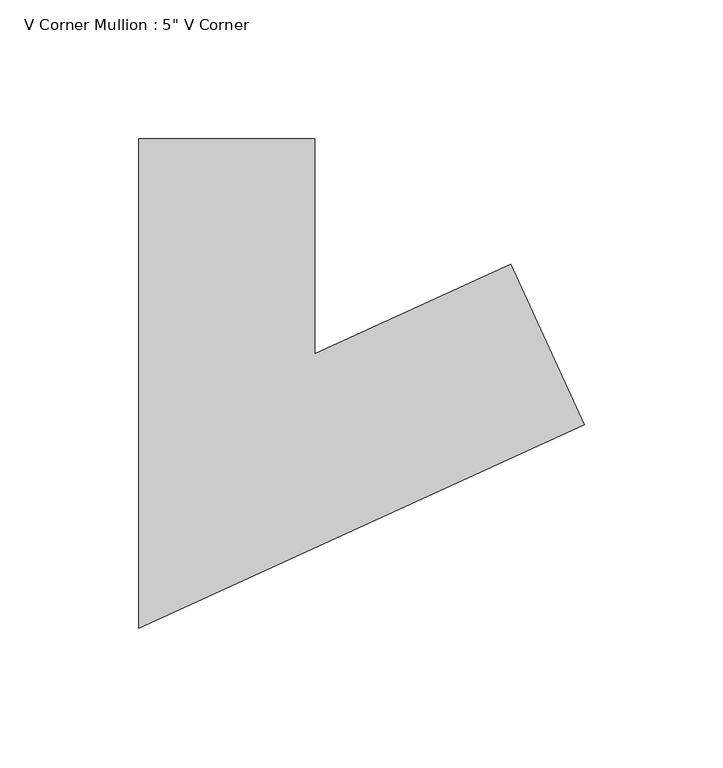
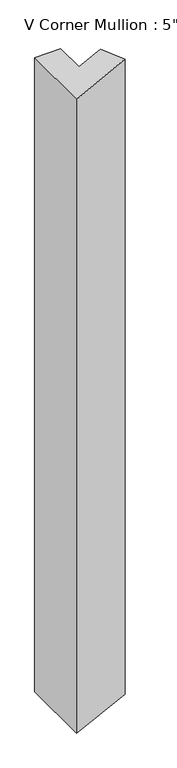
"""IFC4 building model written with IfcOpenShell, lengths in millimetres: member geometry."""

import ifcopenshell
import ifcopenshell.guid

model = None  # the IFC model being written
_history = None  # IfcOwnerHistory: only IFC2X3 demands one
_inside = {}  # id of a spatial element -> (the spatial element, [elements in it])
_under = {}  # id of a project, library or spatial element -> (it, [spatial elements below it])
_declared = {}  # id of a project -> (the project, [libraries it declares])
_typed = {}  # id of a type object -> (the type object, [elements of that type])
_made_of = {}  # id of a material, layer set ... -> (it, [elements and type objects made of it])


def new_model(schema):
    """Start an empty IFC model of exactly this schema.

    Asked for "IFC4X3", IfcOpenShell would pick the latest addendum, in which some entities
    have other attributes; the version numbers below select the first issue.
    IFC2X3 requires an IfcOwnerHistory on every rooted entity: one is made here for all.
    """
    global model, _history
    if schema == "IFC4X3":
        model = ifcopenshell.file(schema_version=(4, 3, 0, 0))
    else:
        model = ifcopenshell.file(schema=schema)
    _inside.clear()
    _under.clear()
    _declared.clear()
    _typed.clear()
    _made_of.clear()
    _history = None
    if model.schema == "IFC2X3":
        org = make("IfcOrganization", Name="unknown")
        user = make(
            "IfcPersonAndOrganization",
            ThePerson=make("IfcPerson", FamilyName="unknown"),
            TheOrganization=org,
        )
        app = make(
            "IfcApplication",
            ApplicationDeveloper=org,
            Version="unknown",
            ApplicationFullName="unknown",
            ApplicationIdentifier="unknown",
        )
        _history = make(
            "IfcOwnerHistory",
            OwningUser=user,
            OwningApplication=app,
            ChangeAction="ADDED",
            CreationDate=0,
        )
    return model


def make(cls, **values):
    """One entity of the class cls with the attributes given. An attribute that is None is left unset."""
    return model.create_entity(
        cls, **{name: value for name, value in values.items() if value is not None}
    )


def rooted(cls, **values):
    """An entity with a GlobalId (a new one), such as an element, a storey or a relation."""
    return make(cls, GlobalId=ifcopenshell.guid.new(), OwnerHistory=_history, **values)


def si_unit(unit_type, name, prefix=None):
    """IfcSIUnit, for example si_unit("LENGTHUNIT", "METRE", prefix="MILLI")."""
    return make("IfcSIUnit", UnitType=unit_type, Prefix=prefix, Name=name)


def assignment(units):
    """IfcUnitAssignment: the units of a project."""
    return None if units is None else make("IfcUnitAssignment", Units=units)


def point(xyz):
    """IfcCartesianPoint."""
    return None if xyz is None else make("IfcCartesianPoint", Coordinates=xyz)


def direction(xyz):
    """IfcDirection."""
    return None if xyz is None else make("IfcDirection", DirectionRatios=xyz)


def frame(location, z_axis=None, x_axis=None):
    """IfcAxis2Placement3D, a coordinate frame: its origin and axes. An axis left out is left unset."""
    return make(
        "IfcAxis2Placement3D",
        Location=point(location),
        Axis=direction(z_axis),
        RefDirection=direction(x_axis),
    )


def origin():
    """The frame at (0, 0, 0) with its axes left unset."""
    return frame((0.0, 0.0, 0.0))


def place(relative_to, where):
    """IfcLocalPlacement: puts the frame where relative to a parent placement (None: the world)."""
    return make(
        "IfcLocalPlacement", PlacementRelTo=relative_to, RelativePlacement=where
    )


def context(
    kind, dimensions, precision=None, world=None, true_north=None, identifier=None
):
    """IfcGeometricRepresentationContext, for example the 3D "Model" context."""
    return make(
        "IfcGeometricRepresentationContext",
        ContextIdentifier=identifier,
        ContextType=kind,
        CoordinateSpaceDimension=dimensions,
        Precision=precision,
        WorldCoordinateSystem=world,
        TrueNorth=true_north,
    )


def project(units=None, contexts=None):
    """IfcProject with its units and contexts."""
    return rooted(
        "IfcProject",
        Name="project",
        RepresentationContexts=contexts,
        UnitsInContext=assignment(units),
    )


def spatial(cls, under=None, at=None, **own):
    """A site, building, storey or space (cls), placed at a placement, below another one or the project."""
    s = rooted(cls, ObjectPlacement=at, **own)
    if under is not None:
        _under.setdefault(under.id(), (under, []))[1].append(s)
    return s


def faces_of(points, faces, orient=None, outer=None):
    """IfcFace entities. A face is a list of loops; a loop is a list of indices into points, from 0.

    orient and outer hold one flag for each loop. By default every Orientation is true, the
    first loop of a face is its IfcFaceOuterBound and the others are IfcFaceBound.
    """
    made = []
    for i, loops in enumerate(faces):
        bounds = []
        for j, loop in enumerate(loops):
            is_outer = j == 0 if outer is None else outer[i][j]
            bounds.append(
                make(
                    "IfcFaceOuterBound" if is_outer else "IfcFaceBound",
                    Bound=make("IfcPolyLoop", Polygon=[points[k] for k in loop]),
                    Orientation=True if orient is None else orient[i][j],
                )
            )
        made.append(make("IfcFace", Bounds=bounds))
    return made


def faceted_brep(points, faces, orient=None, outer=None, voids=None):
    """IfcFacetedBrep: a solid bounded by flat faces; with voids (closed shells), ...WithVoids."""
    shared = [point(p) for p in points]
    hull = make("IfcClosedShell", CfsFaces=faces_of(shared, faces, orient, outer))
    if voids is None:
        return make("IfcFacetedBrep", Outer=hull)
    return make(
        "IfcFacetedBrepWithVoids",
        Outer=hull,
        Voids=[
            make(cls, CfsFaces=faces_of(shared, fs, o, b)) for cls, fs, o, b in voids
        ],
    )


def shape(context_of_items, identifier, shape_type, items):
    """IfcShapeRepresentation: the items that make up one representation, for example the "Body"."""
    return make(
        "IfcShapeRepresentation",
        ContextOfItems=context_of_items,
        RepresentationIdentifier=identifier,
        RepresentationType=shape_type,
        Items=items,
    )


def source(mapping_origin, context_of_items, identifier, shape_type, items):
    """IfcRepresentationMap: a shape defined once, which mapped items show again and again."""
    return make(
        "IfcRepresentationMap",
        MappingOrigin=mapping_origin,
        MappedRepresentation=shape(context_of_items, identifier, shape_type, items),
    )


def transform(
    local_origin,
    x_axis=None,
    y_axis=None,
    z_axis=None,
    scale=None,
    scale2=None,
    scale3=None,
    uniform=True,
):
    """IfcCartesianTransformationOperator3D, or its non-uniform kind. x_axis, y_axis, z_axis: its Axis1, 2, 3."""
    if uniform:
        return make(
            "IfcCartesianTransformationOperator3D",
            Axis1=direction(x_axis),
            Axis2=direction(y_axis),
            LocalOrigin=point(local_origin),
            Scale=scale,
            Axis3=direction(z_axis),
        )
    return make(
        "IfcCartesianTransformationOperator3DnonUniform",
        Axis1=direction(x_axis),
        Axis2=direction(y_axis),
        LocalOrigin=point(local_origin),
        Scale=scale,
        Axis3=direction(z_axis),
        Scale2=scale2,
        Scale3=scale3,
    )


def mapped(mapping_source, mapping_target):
    """IfcMappedItem: shows the shape of a source again, moved by a transform."""
    return make(
        "IfcMappedItem", MappingSource=mapping_source, MappingTarget=mapping_target
    )


def made_of(thing, what):
    """Note that an element or type object is made of a material, layer set ...; save() writes the relation."""
    if what is not None:
        _made_of.setdefault(what.id(), (what, []))[1].append(thing)
    return thing


def element(
    cls,
    number,
    at=None,
    inside=None,
    cuts=None,
    type_object=None,
    material=None,
    context=None,
    identifier="Body",
    shape_type=None,
    held_by="IfcProductDefinitionShape",
    body=None,
    shapes=None,
    **own,
):
    """One element of the class cls, such as IfcWall. Its Tag is "e" and its number.

    at: its placement. inside: the storey or other place that contains it. cuts: it is an
    opening in that element (IfcRelVoidsElement). A single representation is given by context,
    identifier, shape_type and body (its items); several are given by shapes. held_by: the class
    of the entity that holds the representations. save() writes the other relations.
    """
    e = rooted(cls, Tag="e%d" % number, ObjectPlacement=at, **own)
    if body is not None:
        shapes = [shape(context, identifier, shape_type, body)]
    if shapes is not None:
        e.Representation = make(held_by, Representations=shapes)
    if inside is not None:
        _inside.setdefault(inside.id(), (inside, []))[1].append(e)
    if cuts is not None:
        rooted(
            "IfcRelVoidsElement", RelatingBuildingElement=cuts, RelatedOpeningElement=e
        )
    if type_object is not None:
        _typed.setdefault(type_object.id(), (type_object, []))[1].append(e)
    return made_of(e, material)


def aggregate(whole, parts):
    """IfcRelAggregates: a whole, such as a stair, and the parts it consists of."""
    return rooted("IfcRelAggregates", RelatingObject=whole, RelatedObjects=parts)


def save(model, path):
    """Write the relations noted so far, then the file.

    IfcRelAggregates (storeys below a building ...), IfcRelContainedInSpatialStructure (elements
    in a storey), IfcRelDefinesByType, IfcRelAssociatesMaterial and IfcRelDeclares: one each for
    every whole, place, type object, material and project.
    """
    for whole, parts in _under.values():
        aggregate(whole, parts)
    for where, things in _inside.values():
        rooted(
            "IfcRelContainedInSpatialStructure",
            RelatedElements=things,
            RelatingStructure=where,
        )
    for kind, things in _typed.values():
        rooted("IfcRelDefinesByType", RelatedObjects=things, RelatingType=kind)
    for what, things in _made_of.values():
        rooted("IfcRelAssociatesMaterial", RelatedObjects=things, RelatingMaterial=what)
    for by, libraries in _declared.values():
        rooted("IfcRelDeclares", RelatingContext=by, RelatedDefinitions=libraries)
    model.write(path)


def member_3d656d0b(model_context):
    return source(origin(), model_context, "Body", "Brep", [
        faceted_brep([(87.9205542, -39.5195451, -1634.7932889), (-72.5228811, -112.9476953, -1634.7932889), (-72.5228811, 63.5, -1634.7932889), (-9.0228811, 63.5, -1634.7932889), (-9.0228811, -14.0523047, -1634.7932889), (61.49523, 18.2208415, -1634.7932889), (61.49523, 18.2208415, 1.0262399), (87.9205542, -39.5195451, 1.467229), (-9.0228811, -14.0523047, -0.1505749), (-9.0228811, 63.5, -0.1505749), (-72.5228811, 63.5, -1.2102707), (-72.5228811, -112.9476953, -1.2102707)], [[[0, 1, 2, 3, 4, 5]], [[6, 7, 0, 5]], [[8, 6, 5, 4]], [[9, 8, 4, 3]], [[10, 9, 3, 2]], [[11, 10, 2, 1]], [[7, 11, 1, 0]], [[7, 6, 8, 9, 10, 11]]]),
    ])


if __name__ == "__main__":
    model = new_model("IFC4")
    model_context = context("Model", 3, world=origin())
    ifc_project = project(units=[si_unit("LENGTHUNIT", "METRE", prefix="MILLI")], contexts=[model_context])
    site = spatial("IfcSite", under=ifc_project)
    building = spatial("IfcBuilding", under=site)
    placement = place(None, origin())
    member_shape = member_3d656d0b(model_context)
    element("IfcMember", 1, ObjectType="V Corner Mullion : 5\" V Corner", at=placement, inside=building, context=model_context, shape_type="MappedRepresentation", body=[
        mapped(member_shape, transform((0.0, 0.0, 0.0), x_axis=(1.0, 0.0, 0.0), y_axis=(0.0, 1.0, 0.0), z_axis=(0.0, 0.0, 1.0))),
    ])
    save(model, "model.ifc")
